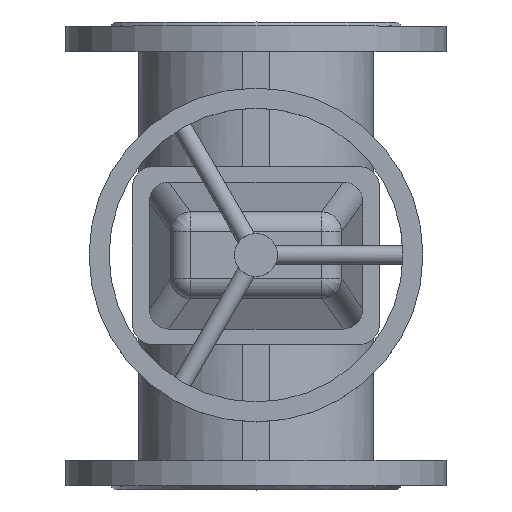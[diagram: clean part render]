
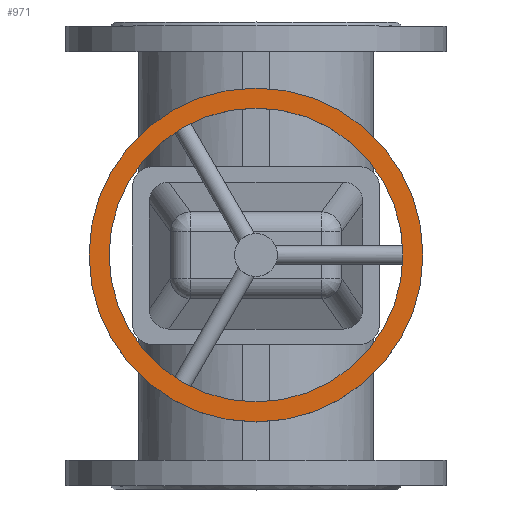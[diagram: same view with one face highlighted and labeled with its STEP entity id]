
A CAD part, top view. The second image highlights one B-rep face of the part: STEP entity #971.
In plain terms, the highlighted planar face has unit normal (0, 0, 1).
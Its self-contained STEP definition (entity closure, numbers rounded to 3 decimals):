
#971=ADVANCED_FACE('',(#2100,#2102),#2104,.T.);
#2100=FACE_BOUND('',#2101,.T.);
#2101=EDGE_LOOP('',(#2677));
#2102=FACE_BOUND('',#2103,.T.);
#2103=EDGE_LOOP('',(#2678));
#2104=PLANE('',#2105);
#2105=AXIS2_PLACEMENT_3D('',#2106,#2107,#2108);
#2106=CARTESIAN_POINT('',(0.,0.,428.5));
#2107=DIRECTION('',(0.,0.,1.));
#2108=DIRECTION('',(0.,-1.,0.));
#2677=ORIENTED_EDGE('',*,*,#2959,.T.);
#2678=ORIENTED_EDGE('',*,*,#2957,.T.);
#2957=EDGE_CURVE('',#3427,#3427,#3428,.F.);
#2959=EDGE_CURVE('',#3431,#3431,#3432,.T.);
#3427=VERTEX_POINT('',#5957);
#3428=CIRCLE('',#5958,110.);
#3431=VERTEX_POINT('',#5967);
#3432=CIRCLE('',#5968,125.);
#5957=CARTESIAN_POINT('',(0.,-110.,428.5));
#5958=AXIS2_PLACEMENT_3D('',#5959,#5960,#5961);
#5959=CARTESIAN_POINT('',(0.,0.,428.5));
#5960=DIRECTION('',(0.,0.,1.));
#5961=DIRECTION('',(0.,-1.,0.));
#5967=CARTESIAN_POINT('',(0.,-125.,428.5));
#5968=AXIS2_PLACEMENT_3D('',#5969,#5970,#5971);
#5969=CARTESIAN_POINT('',(0.,0.,428.5));
#5970=DIRECTION('',(0.,0.,1.));
#5971=DIRECTION('',(0.,-1.,0.));
